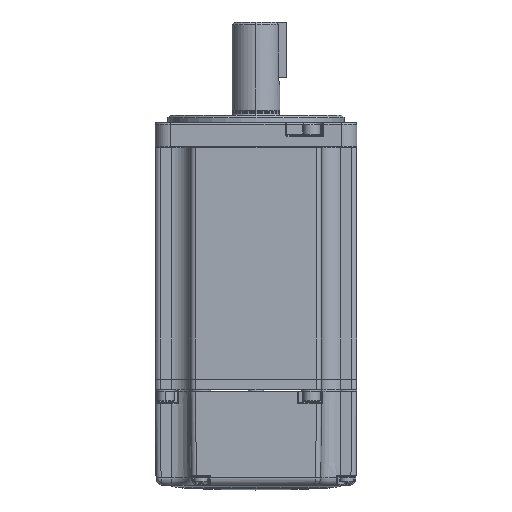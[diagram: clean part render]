
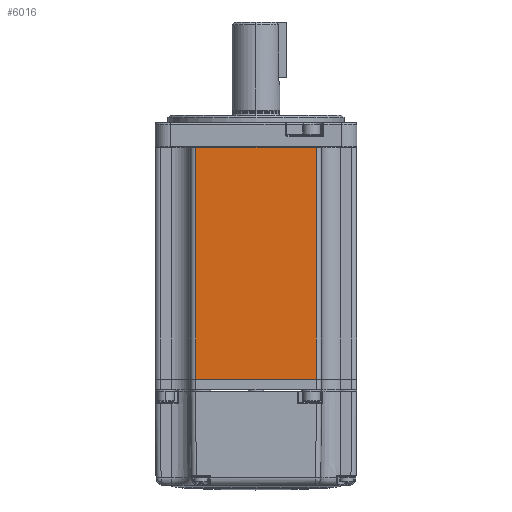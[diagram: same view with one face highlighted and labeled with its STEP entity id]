
A CAD part, front view. The second image highlights one B-rep face of the part: STEP entity #6016.
In plain terms, the highlighted planar face has unit normal (0, -1, 0).
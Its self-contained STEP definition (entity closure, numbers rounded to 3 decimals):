
#5720 = ORIENTED_EDGE ( 'NONE', *, *, #30426, .T. ) ;
#5721 = ORIENTED_EDGE ( 'NONE', *, *, #30318, .T. ) ;
#5722 = ORIENTED_EDGE ( 'NONE', *, *, #30427, .T. ) ;
#5723 = ORIENTED_EDGE ( 'NONE', *, *, #30308, .T. ) ;
#6016 = ADVANCED_FACE ( 'NONE', ( #10153 ), #29370, .F. ) ;
#8003 = EDGE_LOOP ( 'NONE', ( #5720, #5721, #5722, #5723 ) ) ;
#10153 = FACE_OUTER_BOUND ( 'NONE', #8003, .T. ) ;
#10685 = AXIS2_PLACEMENT_3D ( 'NONE', #29365, #29373, #29374 ) ;
#17158 = CARTESIAN_POINT ( 'NONE',  ( 24., -40., 93.3 ) ) ;
#17167 = CARTESIAN_POINT ( 'NONE',  ( -24., -40., 93.3 ) ) ;
#17168 = CARTESIAN_POINT ( 'NONE',  ( 24., -40., 1.2 ) ) ;
#17172 = CARTESIAN_POINT ( 'NONE',  ( -24., -40., 1.2 ) ) ;
#23853 = VERTEX_POINT ( 'NONE', #17158 ) ;
#23870 = VERTEX_POINT ( 'NONE', #17167 ) ;
#23872 = VERTEX_POINT ( 'NONE', #17168 ) ;
#23880 = VERTEX_POINT ( 'NONE', #17172 ) ;
#29365 = CARTESIAN_POINT ( 'NONE',  ( 0., -40., 94.5 ) ) ;
#29370 = PLANE ( 'NONE',  #10685 ) ;
#29373 = DIRECTION ( 'NONE',  ( 0., 1., 0. ) ) ;
#29374 = DIRECTION ( 'NONE',  ( -1., 0., 0. ) ) ;
#30308 = EDGE_CURVE ( 'NONE', #23853, #23870, #41005, .T. ) ;
#30318 = EDGE_CURVE ( 'NONE', #23880, #23872, #41024, .T. ) ;
#30426 = EDGE_CURVE ( 'NONE', #23870, #23880, #41202, .T. ) ;
#30427 = EDGE_CURVE ( 'NONE', #23872, #23853, #41204, .T. ) ;
#40243 = CARTESIAN_POINT ( 'NONE',  ( -24., -40., 93.3 ) ) ;
#40251 = DIRECTION ( 'NONE',  ( -1., 0., 0. ) ) ;
#40275 = CARTESIAN_POINT ( 'NONE',  ( 24., -40., 1.2 ) ) ;
#40276 = DIRECTION ( 'NONE',  ( 1., 0., 0. ) ) ;
#40528 = CARTESIAN_POINT ( 'NONE',  ( -24., -40., 94.5 ) ) ;
#40529 = DIRECTION ( 'NONE',  ( 0., 0., -1. ) ) ;
#40530 = CARTESIAN_POINT ( 'NONE',  ( 24., -40., 94.5 ) ) ;
#40531 = DIRECTION ( 'NONE',  ( 0., 0., 1. ) ) ;
#41005 = LINE ( 'NONE', #40243, #41011 ) ;
#41011 = VECTOR ( 'NONE', #40251, 1000. ) ;
#41024 = LINE ( 'NONE', #40275, #41027 ) ;
#41027 = VECTOR ( 'NONE', #40276, 1000. ) ;
#41202 = LINE ( 'NONE', #40528, #41205 ) ;
#41204 = LINE ( 'NONE', #40530, #41207 ) ;
#41205 = VECTOR ( 'NONE', #40529, 1000. ) ;
#41207 = VECTOR ( 'NONE', #40531, 1000. ) ;
